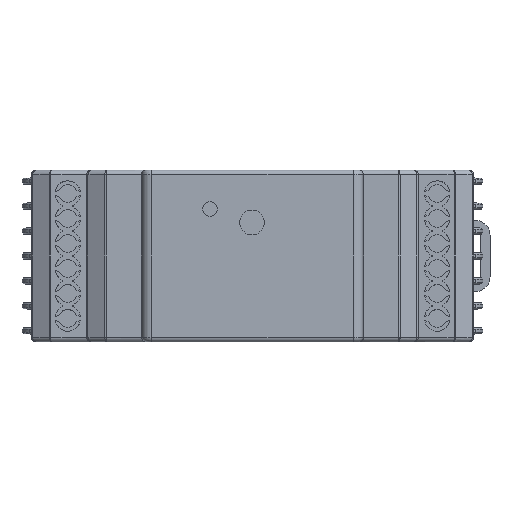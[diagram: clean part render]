
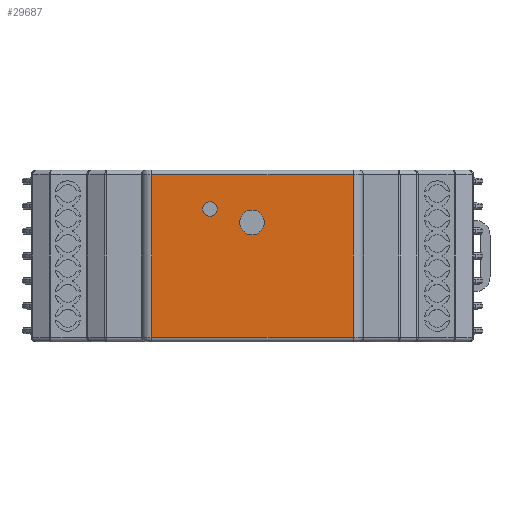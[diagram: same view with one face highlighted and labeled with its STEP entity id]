
A CAD part, left-side view. The second image highlights one B-rep face of the part: STEP entity #29687.
In plain terms, the highlighted planar face has unit normal (-1, 0, 0).
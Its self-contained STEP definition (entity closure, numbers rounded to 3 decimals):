
#112 = AXIS2_PLACEMENT_3D ( 'NONE', #14558, #21966, #19443 ) ;
#1161 = AXIS2_PLACEMENT_3D ( 'NONE', #28675, #31074, #13570 ) ;
#2110 = ORIENTED_EDGE ( 'NONE', *, *, #14069, .F. ) ;
#2709 = DIRECTION ( 'NONE',  ( 0., -1., 0. ) ) ;
#3070 = EDGE_CURVE ( 'NONE', #13425, #17813, #22878, .T. ) ;
#3094 = ORIENTED_EDGE ( 'NONE', *, *, #28527, .T. ) ;
#3313 = AXIS2_PLACEMENT_3D ( 'NONE', #8225, #30523, #25537 ) ;
#4130 = LINE ( 'NONE', #27664, #21986 ) ;
#4393 = EDGE_CURVE ( 'NONE', #18398, #23377, #31006, .T. ) ;
#4422 = ORIENTED_EDGE ( 'NONE', *, *, #10031, .F. ) ;
#5138 = VERTEX_POINT ( 'NONE', #24567 ) ;
#5513 = LINE ( 'NONE', #24887, #28820 ) ;
#8225 = CARTESIAN_POINT ( 'NONE',  ( -52.9, 8.634, 9.58 ) ) ;
#8265 = CARTESIAN_POINT ( 'NONE',  ( -52.9, 8.634, 9.58 ) ) ;
#8304 = AXIS2_PLACEMENT_3D ( 'NONE', #8265, #25573, #13172 ) ;
#8308 = EDGE_CURVE ( 'NONE', #5138, #26572, #16467, .T. ) ;
#9728 = DIRECTION ( 'NONE',  ( 0., 1., 0. ) ) ;
#10031 = EDGE_CURVE ( 'NONE', #26572, #5138, #16378, .T. ) ;
#10860 = EDGE_LOOP ( 'NONE', ( #2110, #17982 ) ) ;
#11475 = FACE_BOUND ( 'NONE', #25521, .T. ) ;
#11823 = CARTESIAN_POINT ( 'NONE',  ( -52.9, 22.5, 17.5 ) ) ;
#12363 = CARTESIAN_POINT ( 'NONE',  ( -52.9, 8.634, 8.08 ) ) ;
#12651 = VERTEX_POINT ( 'NONE', #29991 ) ;
#13172 = DIRECTION ( 'NONE',  ( 0., 0., -1. ) ) ;
#13425 = VERTEX_POINT ( 'NONE', #26287 ) ;
#13570 = DIRECTION ( 'NONE',  ( 0., 0., -1. ) ) ;
#13789 = CARTESIAN_POINT ( 'NONE',  ( -52.9, 20.517, -16.5 ) ) ;
#14069 = EDGE_CURVE ( 'NONE', #23377, #18398, #23469, .T. ) ;
#14558 = CARTESIAN_POINT ( 'NONE',  ( -52.9, 0.094, 6.828 ) ) ;
#15865 = VERTEX_POINT ( 'NONE', #22215 ) ;
#16378 = CIRCLE ( 'NONE', #8304, 1.5 ) ;
#16467 = CIRCLE ( 'NONE', #3313, 1.5 ) ;
#17813 = VERTEX_POINT ( 'NONE', #13789 ) ;
#17874 = CARTESIAN_POINT ( 'NONE',  ( -52.9, 0.094, 4.311 ) ) ;
#17982 = ORIENTED_EDGE ( 'NONE', *, *, #4393, .F. ) ;
#18398 = VERTEX_POINT ( 'NONE', #24040 ) ;
#19443 = DIRECTION ( 'NONE',  ( 0., 0., -1. ) ) ;
#19576 = PLANE ( 'NONE',  #23122 ) ;
#19728 = DIRECTION ( 'NONE',  ( 0., 0., -1. ) ) ;
#21966 = DIRECTION ( 'NONE',  ( -1., 0., 0. ) ) ;
#21986 = VECTOR ( 'NONE', #2709, 1000. ) ;
#22049 = DIRECTION ( 'NONE',  ( 0., 0., 1. ) ) ;
#22215 = CARTESIAN_POINT ( 'NONE',  ( -52.9, -20.517, -16.5 ) ) ;
#22352 = CARTESIAN_POINT ( 'NONE',  ( -52.9, 20.517, -16.5 ) ) ;
#22418 = FACE_OUTER_BOUND ( 'NONE', #25348, .T. ) ;
#22878 = LINE ( 'NONE', #22352, #24421 ) ;
#23122 = AXIS2_PLACEMENT_3D ( 'NONE', #11823, #31550, #31768 ) ;
#23377 = VERTEX_POINT ( 'NONE', #17874 ) ;
#23469 = CIRCLE ( 'NONE', #1161, 2.517 ) ;
#24040 = CARTESIAN_POINT ( 'NONE',  ( -52.9, 0.094, 9.345 ) ) ;
#24275 = EDGE_CURVE ( 'NONE', #12651, #13425, #5513, .T. ) ;
#24421 = VECTOR ( 'NONE', #19728, 1000. ) ;
#24567 = CARTESIAN_POINT ( 'NONE',  ( -52.9, 8.634, 11.08 ) ) ;
#24887 = CARTESIAN_POINT ( 'NONE',  ( -52.9, 22.5, 16.5 ) ) ;
#25178 = ORIENTED_EDGE ( 'NONE', *, *, #30257, .T. ) ;
#25348 = EDGE_LOOP ( 'NONE', ( #25178, #3094, #31922, #29585 ) ) ;
#25521 = EDGE_LOOP ( 'NONE', ( #4422, #27661 ) ) ;
#25537 = DIRECTION ( 'NONE',  ( 0., 0., -1. ) ) ;
#25573 = DIRECTION ( 'NONE',  ( -1., 0., 0. ) ) ;
#26287 = CARTESIAN_POINT ( 'NONE',  ( -52.9, 20.517, 16.5 ) ) ;
#26572 = VERTEX_POINT ( 'NONE', #12363 ) ;
#27661 = ORIENTED_EDGE ( 'NONE', *, *, #8308, .F. ) ;
#27664 = CARTESIAN_POINT ( 'NONE',  ( -52.9, 22.5, -16.5 ) ) ;
#27912 = VECTOR ( 'NONE', #22049, 1000. ) ;
#28527 = EDGE_CURVE ( 'NONE', #15865, #12651, #31838, .T. ) ;
#28675 = CARTESIAN_POINT ( 'NONE',  ( -52.9, 0.094, 6.828 ) ) ;
#28820 = VECTOR ( 'NONE', #9728, 1000. ) ;
#29585 = ORIENTED_EDGE ( 'NONE', *, *, #3070, .T. ) ;
#29687 = ADVANCED_FACE ( 'NONE', ( #29790, #11475, #22418 ), #19576, .F. ) ;
#29790 = FACE_BOUND ( 'NONE', #10860, .T. ) ;
#29991 = CARTESIAN_POINT ( 'NONE',  ( -52.9, -20.517, 16.5 ) ) ;
#30257 = EDGE_CURVE ( 'NONE', #17813, #15865, #4130, .T. ) ;
#30523 = DIRECTION ( 'NONE',  ( -1., 0., 0. ) ) ;
#31006 = CIRCLE ( 'NONE', #112, 2.517 ) ;
#31074 = DIRECTION ( 'NONE',  ( -1., 0., 0. ) ) ;
#31550 = DIRECTION ( 'NONE',  ( 1., 0., 0. ) ) ;
#31768 = DIRECTION ( 'NONE',  ( 0., 0., -1. ) ) ;
#31838 = LINE ( 'NONE', #32158, #27912 ) ;
#31922 = ORIENTED_EDGE ( 'NONE', *, *, #24275, .T. ) ;
#32158 = CARTESIAN_POINT ( 'NONE',  ( -52.9, -20.517, 16.5 ) ) ;
